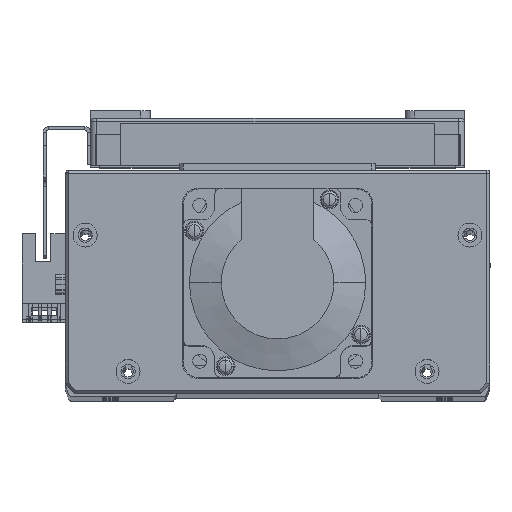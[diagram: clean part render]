
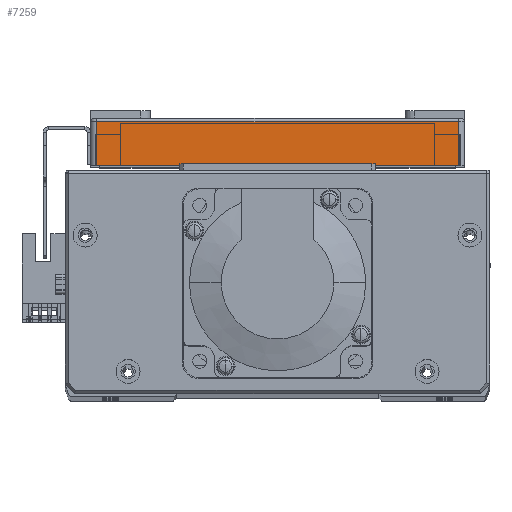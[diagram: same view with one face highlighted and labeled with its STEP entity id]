
A CAD part, top view. The second image highlights one B-rep face of the part: STEP entity #7259.
In plain terms, the highlighted planar face has unit normal (0, 0, 1) as drawn and (-1, 0, 0) by its records, which use the part's own axes.
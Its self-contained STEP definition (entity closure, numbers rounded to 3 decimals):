
#1207 = VECTOR ( 'NONE', #13610, 1000. ) ;
#1229 = VECTOR ( 'NONE', #13641, 1000. ) ;
#1242 = LINE ( 'NONE', #13603, #1229 ) ;
#1248 = LINE ( 'NONE', #13648, #1207 ) ;
#3474 = CARTESIAN_POINT ( 'NONE',  ( -95., 14., 57.5 ) ) ;
#7259 = ADVANCED_FACE ( 'NONE', ( #23584 ), #36745, .F. ) ;
#10599 = AXIS2_PLACEMENT_3D ( 'NONE', #36791, #36767, #36769 ) ;
#11353 = ORIENTED_EDGE ( 'NONE', *, *, #21542, .T. ) ;
#11354 = ORIENTED_EDGE ( 'NONE', *, *, #21552, .T. ) ;
#11365 = ORIENTED_EDGE ( 'NONE', *, *, #21504, .T. ) ;
#11372 = ORIENTED_EDGE ( 'NONE', *, *, #21553, .T. ) ;
#13600 = DIRECTION ( 'NONE',  ( 0., 1., 0. ) ) ;
#13603 = CARTESIAN_POINT ( 'NONE',  ( -95., 14., -57.5 ) ) ;
#13605 = CARTESIAN_POINT ( 'NONE',  ( -95., 15., 57.5 ) ) ;
#13610 = DIRECTION ( 'NONE',  ( 0., 0., 1. ) ) ;
#13641 = DIRECTION ( 'NONE',  ( 0., 0., -1. ) ) ;
#13648 = CARTESIAN_POINT ( 'NONE',  ( -95., 0., -59.5 ) ) ;
#14565 = LINE ( 'NONE', #13605, #15143 ) ;
#15143 = VECTOR ( 'NONE', #13600, 1000. ) ;
#15330 = CARTESIAN_POINT ( 'NONE',  ( -95., 15., -57.5 ) ) ;
#15394 = VECTOR ( 'NONE', #15400, 1000. ) ;
#15400 = DIRECTION ( 'NONE',  ( 0., -1., 0. ) ) ;
#15415 = LINE ( 'NONE', #15330, #15394 ) ;
#19976 = VERTEX_POINT ( 'NONE', #23043 ) ;
#19982 = VERTEX_POINT ( 'NONE', #23075 ) ;
#20024 = VERTEX_POINT ( 'NONE', #23080 ) ;
#21504 = EDGE_CURVE ( 'NONE', #19982, #20024, #15415, .T. ) ;
#21542 = EDGE_CURVE ( 'NONE', #19976, #55486, #14565, .T. ) ;
#21552 = EDGE_CURVE ( 'NONE', #55486, #19982, #1242, .T. ) ;
#21553 = EDGE_CURVE ( 'NONE', #20024, #19976, #1248, .T. ) ;
#23043 = CARTESIAN_POINT ( 'NONE',  ( -95., 0., 57.5 ) ) ;
#23075 = CARTESIAN_POINT ( 'NONE',  ( -95., 14., -57.5 ) ) ;
#23080 = CARTESIAN_POINT ( 'NONE',  ( -95., 0., -57.5 ) ) ;
#23584 = FACE_OUTER_BOUND ( 'NONE', #28826, .T. ) ;
#28826 = EDGE_LOOP ( 'NONE', ( #11353, #11354, #11365, #11372 ) ) ;
#36745 = PLANE ( 'NONE',  #10599 ) ;
#36767 = DIRECTION ( 'NONE',  ( 1., 0., 0. ) ) ;
#36769 = DIRECTION ( 'NONE',  ( 0., 0., -1. ) ) ;
#36791 = CARTESIAN_POINT ( 'NONE',  ( -95., 15., -59.5 ) ) ;
#55486 = VERTEX_POINT ( 'NONE', #3474 ) ;
